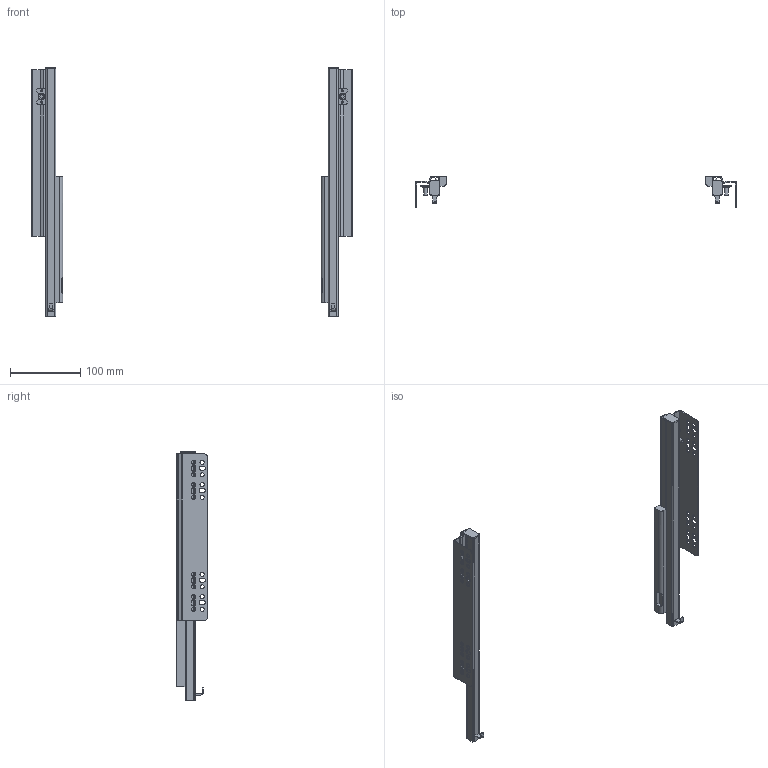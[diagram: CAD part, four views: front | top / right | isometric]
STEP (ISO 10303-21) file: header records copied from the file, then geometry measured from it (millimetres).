
FILE_DESCRIPTION(/* description */ ('Akc'),/* implementation_level */ '2;1');
FILE_NAME(/* name */ 'C:\Users\dmitruk\Documents\WORK\НАПРАВЛЯЮЩИЕ\Скрытого монтажа\Q-Type\Q-Type насадной (16 мм)\Q-Type насадной (16 мм)-350.stp',/* time_stamp */ '2022-04-25T09:43:03+03:00',/* author */ ('dmitruk'),/* organization */ (''),/* preprocessor_version */ 'ST-DEVELOPER v16.5',/* originating_system */ 'Autodesk Inventor 2017',/* authorisation */ '');
FILE_SCHEMA (('AUTOMOTIVE_DESIGN { 1 0 10303 214 3 1 1 }'));
Length unit declared in the file: millimetre
Products named in the file (5): Q-Type насадной (16 \X2\043C
043C\X0\); Q-Type насадной \X2\043E
0441043D043E04320430043D04380435\X0\ L (16 мм); Q-Type насадной \X2\0432
044B04340432043804360435043D04380435\X0\ L; Q-Type насадной \X2\043E
0441043D043E04320430043D04380435\X0\ P (16 мм); Q-Type насадной \X2\0432
044B04340432043804360435043D04380435\X0\ P
Assembly tree (4 placements, depth 2):
  Q-Type насадной (16 \X2\043C
043C\X0\)
    Q-Type насадной \X2\043E
0441043D043E04320430043D04380435\X0\ L (16 мм)
    Q-Type насадной \X2\0432
044B04340432043804360435043D04380435\X0\ L
    Q-Type насадной \X2\043E
0441043D043E04320430043D04380435\X0\ P (16 мм)
    Q-Type насадной \X2\0432
044B04340432043804360435043D04380435\X0\ P
Bounding box: 457.29 x 45 x 357 mm (x, y, z)
Volume: 159852.1 mm3; surface area: 197235.4 mm2
Topology: 8 solids, 8 shells, 354 faces, 966 edges, 636 vertices
Faces by surface type: plane 212, cylinder 138, bspline 4
Full cylindrical faces by diameter (mm): 3 x4, 5 x2, 6 x32, 9 x2
Entity records: 11825 total; most frequent: CARTESIAN_POINT 2089, DIRECTION 1912, ORIENTED_EDGE 1848, EDGE_CURVE 924, AXIS2_PLACEMENT_3D 641, VERTEX_POINT 634, LINE 630, VECTOR 630
